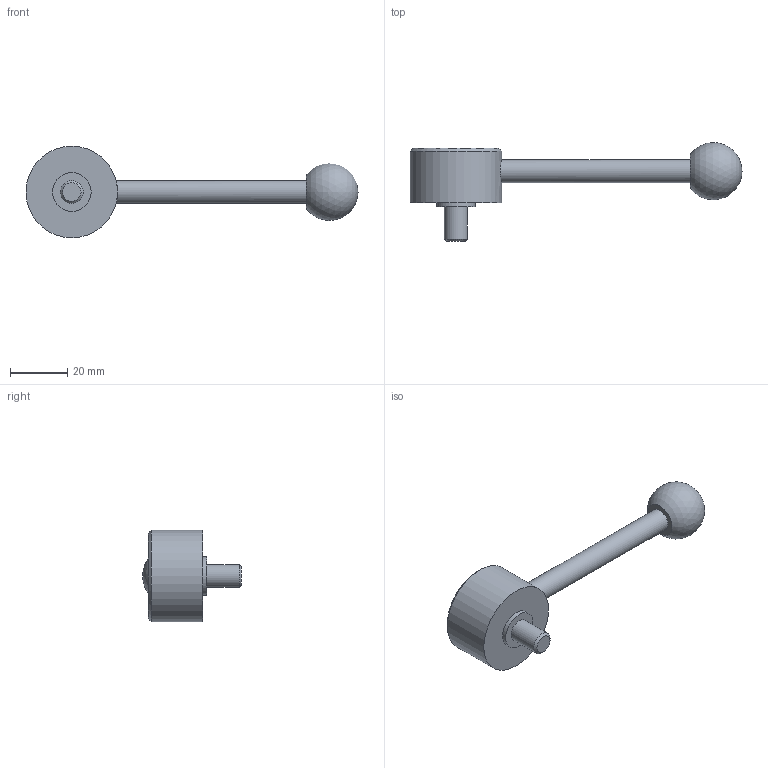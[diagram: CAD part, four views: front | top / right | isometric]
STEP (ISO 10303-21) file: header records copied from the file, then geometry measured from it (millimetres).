
FILE_DESCRIPTION( ( 'STEP AP203' ), '1' );
FILE_NAME( 'C:/Temp/Ganter_Step_05_03_2020/data/2_1/gn_125/gn_125_ms/gn_125_ms_d/Flat Adjustable Lever GN 125-32-M8-12-D.stp', '2020-03-05T11:00:44', ( 'License CC BY-ND 4.0' ), ( 'CADENAS' ), ' ', 'PARTsolutions', ' ' );
FILE_SCHEMA( ( 'CONFIG_CONTROL_DESIGN' ) );
Length unit declared in the file: millimetre
Products named in the file (1): _Flat Adjustable Lever GN 125-32-M8-12-D
Bounding box: 116 x 34.43 x 32 mm (x, y, z)
Volume: 23342.9 mm3; surface area: 6637.1 mm2
Topology: 1 solids, 1 shells, 14 faces, 23 edges, 15 vertices
Faces by surface type: plane 6, cylinder 5, cone 2, sphere 1
Full cylindrical faces by diameter (mm): 8 x2, 13.5 x1, 22 x1, 32 x1
Entity records: 384 total; most frequent: CARTESIAN_POINT 107, DIRECTION 54, AXIS2_PLACEMENT_3D 27, EDGE_LOOP 26, ORIENTED_EDGE 26, FACE_OUTER_BOUND 19, ADVANCED_FACE 14, VERTEX_POINT 14
